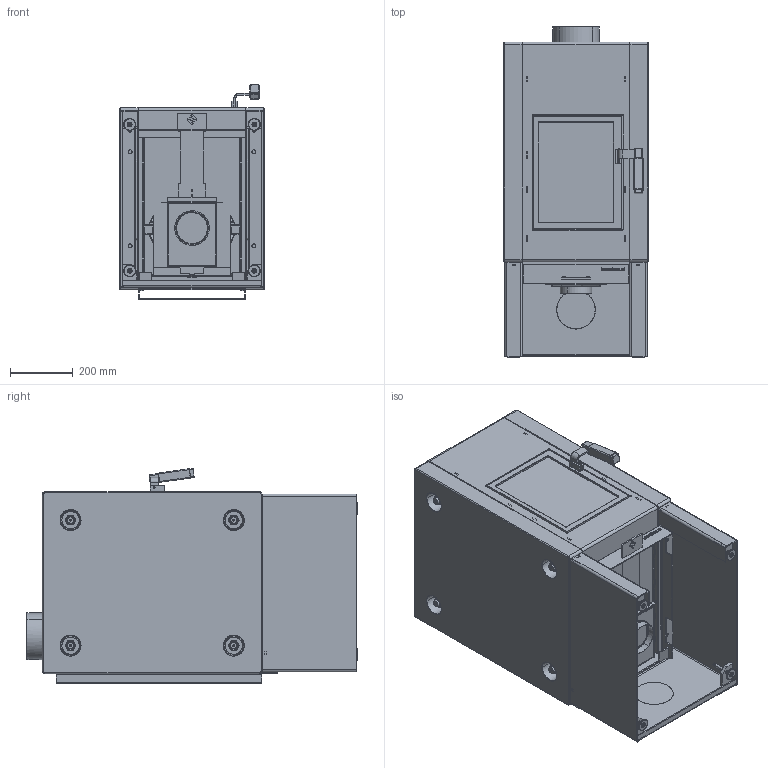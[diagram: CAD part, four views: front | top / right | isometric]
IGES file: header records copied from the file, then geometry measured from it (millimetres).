
Start section: SolidWorks IGES file using analytic representation for surfaces
Global section: file name: L:\Ontwikkeling\Tekeningen\Internet modellen\Boxer Plus\Harrie Leenders Boxer Plus.IGS; native system: SolidWorks 2015; preprocessor: SolidWorks 2015; author: Rob; date: 150305.130501; units: millimetre
Bounding box: 460 x 1052 x 683.76 mm (x, y, z)
Surface area: 9571568.4 mm2 (no closed solid volume)
Topology: 0 solids, 0 shells, 2910 faces, 35485 edges, 35449 vertices
Faces by surface type: bspline 1814, revolution 1096
